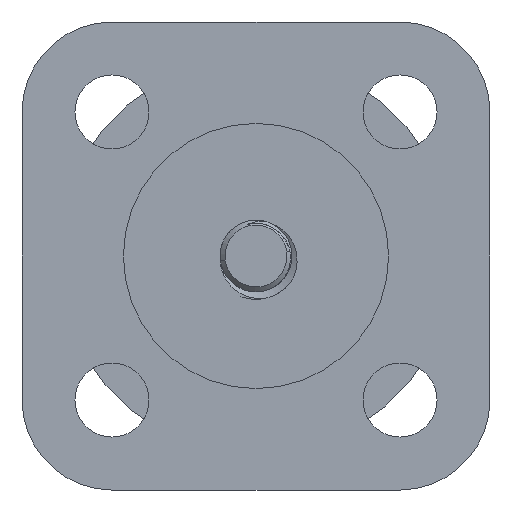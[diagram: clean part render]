
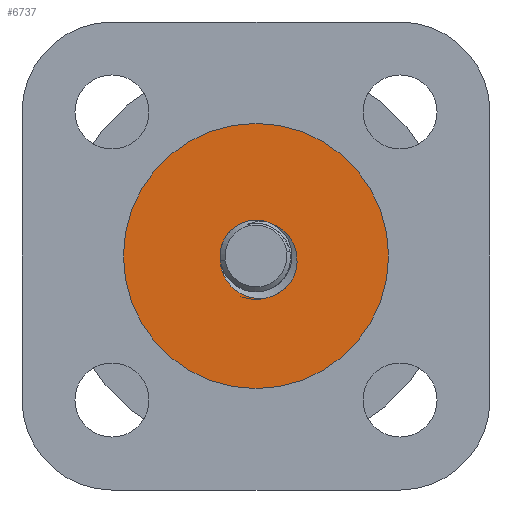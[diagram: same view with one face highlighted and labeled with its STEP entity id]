
A CAD part, front view. The second image highlights one B-rep face of the part: STEP entity #6737.
In plain terms, the highlighted planar face has unit normal (0, -1, 0).
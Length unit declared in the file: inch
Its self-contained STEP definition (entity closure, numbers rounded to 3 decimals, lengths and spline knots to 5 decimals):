
#24 = CIRCLE ( 'NONE', #5210, 0.2505 ) ;
#343 = CIRCLE ( 'NONE', #2833, 0.2505 ) ;
#391 = DIRECTION ( 'NONE',  ( 0., 0., -1. ) ) ;
#452 = CARTESIAN_POINT ( 'NONE',  ( -0.03128, -0.1, -0.07008 ) ) ;
#460 = CIRCLE ( 'NONE', #7810, 0.068 ) ;
#486 = VERTEX_POINT ( 'NONE', #7865 ) ;
#487 = CARTESIAN_POINT ( 'NONE',  ( 0.04295, -0.1, 0.05533 ) ) ;
#514 = CARTESIAN_POINT ( 'NONE',  ( 0.0185, -0.1, -0.07989 ) ) ;
#553 = CARTESIAN_POINT ( 'NONE',  ( -0.00212, -0.1, -0.07995 ) ) ;
#621 = ORIENTED_EDGE ( 'NONE', *, *, #6995, .T. ) ;
#669 = ORIENTED_EDGE ( 'NONE', *, *, #9281, .T. ) ;
#955 = CARTESIAN_POINT ( 'NONE',  ( -0.06717, -0.1, -0.0106 ) ) ;
#1045 = CARTESIAN_POINT ( 'NONE',  ( 0.06483, -0.1, 0.034 ) ) ;
#1297 = CARTESIAN_POINT ( 'NONE',  ( 0.07624, -0.1, -0.0243 ) ) ;
#1324 = CARTESIAN_POINT ( 'NONE',  ( -0.02209, -0.1, -0.07468 ) ) ;
#1393 = EDGE_CURVE ( 'NONE', #3557, #1429, #24, .T. ) ;
#1429 = VERTEX_POINT ( 'NONE', #5894 ) ;
#1673 = CARTESIAN_POINT ( 'NONE',  ( 0., -0.1, 0. ) ) ;
#1813 = CARTESIAN_POINT ( 'NONE',  ( 0.06952, -0.1, -0.04349 ) ) ;
#1970 = DIRECTION ( 'NONE',  ( 0., 0., -1. ) ) ;
#2000 = CARTESIAN_POINT ( 'NONE',  ( 0.00816, -0.1, -0.08064 ) ) ;
#2035 = CARTESIAN_POINT ( 'NONE',  ( 0., -0.1, 0. ) ) ;
#2061 = CARTESIAN_POINT ( 'NONE',  ( -0.06162, -0.1, -0.03567 ) ) ;
#2094 = CARTESIAN_POINT ( 'NONE',  ( -0.06702, -0.1, -0.01574 ) ) ;
#2132 = CARTESIAN_POINT ( 'NONE',  ( -0.04377, -0.1, -0.0608 ) ) ;
#2439 = DIRECTION ( 'NONE',  ( 0., -1., 0. ) ) ;
#2572 = CARTESIAN_POINT ( 'NONE',  ( 0., -0.1, 0. ) ) ;
#2617 = ORIENTED_EDGE ( 'NONE', *, *, #9676, .T. ) ;
#2764 = CIRCLE ( 'NONE', #5850, 0.082 ) ;
#2833 = AXIS2_PLACEMENT_3D ( 'NONE', #1673, #2439, #3966 ) ;
#2860 = CARTESIAN_POINT ( 'NONE',  ( 0.07179, -0.1, -0.0389 ) ) ;
#3449 = DIRECTION ( 'NONE',  ( 0., 1., 0. ) ) ;
#3557 = VERTEX_POINT ( 'NONE', #7607 ) ;
#3631 = CARTESIAN_POINT ( 'NONE',  ( 0.07777, -0.1, -0.00921 ) ) ;
#3687 = FACE_BOUND ( 'NONE', #5593, .T. ) ;
#3710 = DIRECTION ( 'NONE',  ( 0., -1., 0. ) ) ;
#3857 = EDGE_LOOP ( 'NONE', ( #5365, #6592 ) ) ;
#3966 = DIRECTION ( 'NONE',  ( 0., 0., -1. ) ) ;
#4108 = CARTESIAN_POINT ( 'NONE',  ( 0., -0.1, 0.068 ) ) ;
#4266 = VERTEX_POINT ( 'NONE', #9756 ) ;
#4287 = DIRECTION ( 'NONE',  ( 0., -1., 0. ) ) ;
#4383 = CARTESIAN_POINT ( 'NONE',  ( 0.07194, -0.1, 0.02059 ) ) ;
#4796 = CIRCLE ( 'NONE', #8013, 0.068 ) ;
#5191 = CARTESIAN_POINT ( 'NONE',  ( 0.01332, -0.1, -0.08051 ) ) ;
#5210 = AXIS2_PLACEMENT_3D ( 'NONE', #2035, #4287, #1970 ) ;
#5259 = CARTESIAN_POINT ( 'NONE',  ( 0.07761, -0.1, -0.00406 ) ) ;
#5365 = ORIENTED_EDGE ( 'NONE', *, *, #5614, .T. ) ;
#5593 = EDGE_LOOP ( 'NONE', ( #7977, #9067, #621, #2617, #669 ) ) ;
#5614 = EDGE_CURVE ( 'NONE', #1429, #3557, #343, .T. ) ;
#5850 = AXIS2_PLACEMENT_3D ( 'NONE', #9698, #8915, #391 ) ;
#5887 = CARTESIAN_POINT ( 'NONE',  ( -0.05689, -0.1, -0.04481 ) ) ;
#5894 = CARTESIAN_POINT ( 'NONE',  ( 0., -0.1, -0.2505 ) ) ;
#5907 = PLANE ( 'NONE',  #5915 ) ;
#5915 = AXIS2_PLACEMENT_3D ( 'NONE', #7575, #3710, #9778 ) ;
#5920 = CARTESIAN_POINT ( 'NONE',  ( -0.05402, -0.1, -0.04917 ) ) ;
#5952 = CARTESIAN_POINT ( 'NONE',  ( -0.0073, -0.1, -0.07913 ) ) ;
#5967 = EDGE_CURVE ( 'NONE', #486, #8469, #9660, .T. ) ;
#6592 = ORIENTED_EDGE ( 'NONE', *, *, #1393, .T. ) ;
#6653 = CARTESIAN_POINT ( 'NONE',  ( -0.06717, -0.1, -0.0106 ) ) ;
#6657 = CARTESIAN_POINT ( 'NONE',  ( 0.06178, -0.1, 0.03818 ) ) ;
#6684 = CARTESIAN_POINT ( 'NONE',  ( 0.05152, -0.1, 0.04937 ) ) ;
#6714 = CARTESIAN_POINT ( 'NONE',  ( -0.06355, -0.1, -0.0308 ) ) ;
#6737 = ADVANCED_FACE ( 'NONE', ( #9633, #3687 ), #5907, .T. ) ;
#6746 = CARTESIAN_POINT ( 'NONE',  ( 0.07632, -0.1, 0.00596 ) ) ;
#6773 = CARTESIAN_POINT ( 'NONE',  ( 0.06952, -0.1, -0.04349 ) ) ;
#6842 = CARTESIAN_POINT ( 'NONE',  ( 0., -0.1, 0. ) ) ;
#6995 = EDGE_CURVE ( 'NONE', #8469, #9191, #4796, .T. ) ;
#7202 = CARTESIAN_POINT ( 'NONE',  ( 0.03358, -0.1, 0.05913 ) ) ;
#7400 = CARTESIAN_POINT ( 'NONE',  ( -0.06626, -0.1, -0.02082 ) ) ;
#7433 = CARTESIAN_POINT ( 'NONE',  ( -0.04744, -0.1, -0.05719 ) ) ;
#7496 = CARTESIAN_POINT ( 'NONE',  ( 0.07361, -0.1, -0.03409 ) ) ;
#7520 = CARTESIAN_POINT ( 'NONE',  ( -0.03571, -0.1, -0.06724 ) ) ;
#7531 = DIRECTION ( 'NONE',  ( 0., 1., 0. ) ) ;
#7575 = CARTESIAN_POINT ( 'NONE',  ( 0., -0.1, 0. ) ) ;
#7594 = CARTESIAN_POINT ( 'NONE',  ( 0.07708, -0.1, -0.01932 ) ) ;
#7607 = CARTESIAN_POINT ( 'NONE',  ( 0., -0.1, 0.2505 ) ) ;
#7624 = DIRECTION ( 'NONE',  ( 0., 0., -1. ) ) ;
#7810 = AXIS2_PLACEMENT_3D ( 'NONE', #2572, #3449, #7975 ) ;
#7865 = CARTESIAN_POINT ( 'NONE',  ( 0.0185, -0.1, -0.07989 ) ) ;
#7975 = DIRECTION ( 'NONE',  ( 0., 0., -1. ) ) ;
#7977 = ORIENTED_EDGE ( 'NONE', *, *, #9856, .F. ) ;
#8013 = AXIS2_PLACEMENT_3D ( 'NONE', #6842, #7531, #7624 ) ;
#8469 = VERTEX_POINT ( 'NONE', #955 ) ;
#8721 = VERTEX_POINT ( 'NONE', #1813 ) ;
#8915 = DIRECTION ( 'NONE',  ( 0., -1., 0. ) ) ;
#9007 = CARTESIAN_POINT ( 'NONE',  ( 0.06987, -0.1, 0.02522 ) ) ;
#9043 = B_SPLINE_CURVE_WITH_KNOTS ( 'NONE', 3,
 ( #7202, #487, #6684, #6657, #1045, #9007, #4383, #9133, #6746, #5259, #3631, #7594, #1297, #7496, #2860, #6773 ),
 .UNSPECIFIED., .F., .F.,
 ( 4, 2, 2, 2, 2, 2, 2, 4 ),
 ( 0.00123, 0.002, 0.00238, 0.00277, 0.00315, 0.00354, 0.00392, 0.00431 ),
 .UNSPECIFIED. ) ;
#9064 = CARTESIAN_POINT ( 'NONE',  ( -0.01729, -0.1, -0.0765 ) ) ;
#9067 = ORIENTED_EDGE ( 'NONE', *, *, #5967, .T. ) ;
#9133 = CARTESIAN_POINT ( 'NONE',  ( 0.0752, -0.1, 0.0109 ) ) ;
#9191 = VERTEX_POINT ( 'NONE', #4108 ) ;
#9281 = EDGE_CURVE ( 'NONE', #4266, #8721, #9043, .T. ) ;
#9633 = FACE_OUTER_BOUND ( 'NONE', #3857, .T. ) ;
#9660 = B_SPLINE_CURVE_WITH_KNOTS ( 'NONE', 3,
 ( #514, #5191, #2000, #553, #5952, #9064, #1324, #452, #7520, #2132, #7433, #5920, #5887, #2061, #6714, #7400, #2094, #6653 ),
 .UNSPECIFIED., .F., .F.,
 ( 4, 2, 2, 2, 2, 2, 2, 2, 4 ),
 ( 0., 0.00039, 0.00078, 0.00118, 0.00157, 0.00196, 0.00235, 0.00275, 0.00314 ),
 .UNSPECIFIED. ) ;
#9676 = EDGE_CURVE ( 'NONE', #9191, #4266, #460, .T. ) ;
#9698 = CARTESIAN_POINT ( 'NONE',  ( 0., -0.1, 0. ) ) ;
#9756 = CARTESIAN_POINT ( 'NONE',  ( 0.03358, -0.1, 0.05913 ) ) ;
#9778 = DIRECTION ( 'NONE',  ( 0., 0., -1. ) ) ;
#9856 = EDGE_CURVE ( 'NONE', #486, #8721, #2764, .T. ) ;
